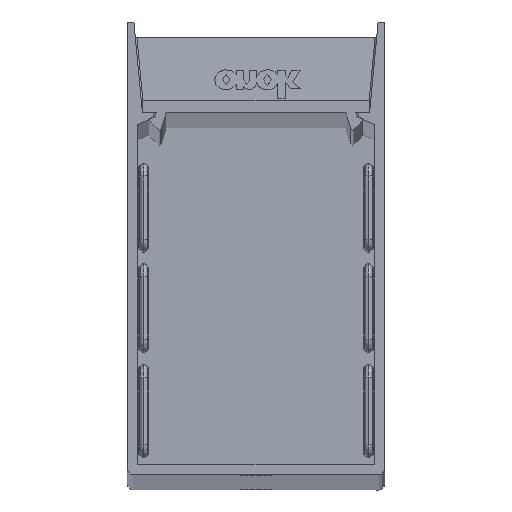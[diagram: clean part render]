
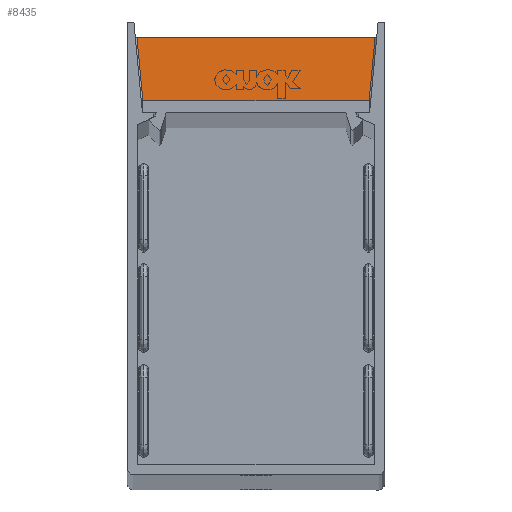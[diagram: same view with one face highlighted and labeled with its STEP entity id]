
A CAD part, top view. The second image highlights one B-rep face of the part: STEP entity #8435.
In plain terms, the highlighted planar face has unit normal (0, 0.093, 0.996) as drawn and (0, 0.093, -0.996) by its records, which use the part's own axes.
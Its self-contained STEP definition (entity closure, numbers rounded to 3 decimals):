
#443 = CARTESIAN_POINT ( 'NONE',  ( -21.25, 37.375, 1.4 ) ) ;
#452 = EDGE_CURVE ( 'NONE', #1576, #7662, #3048, .T. ) ;
#874 = DIRECTION ( 'NONE',  ( 1., 0., 0. ) ) ;
#1205 = EDGE_LOOP ( 'NONE', ( #5895, #5457, #5039, #2758 ) ) ;
#1355 = VECTOR ( 'NONE', #8737, 1000. ) ;
#1576 = VERTEX_POINT ( 'NONE', #4170 ) ;
#1839 = LINE ( 'NONE', #6591, #8629 ) ;
#2533 = EDGE_CURVE ( 'NONE', #5170, #5795, #3220, .T. ) ;
#2758 = ORIENTED_EDGE ( 'NONE', *, *, #452, .T. ) ;
#2826 = VECTOR ( 'NONE', #5839, 1000. ) ;
#2876 = EDGE_CURVE ( 'NONE', #5170, #7662, #1839, .T. ) ;
#3048 = LINE ( 'NONE', #5183, #2826 ) ;
#3220 = LINE ( 'NONE', #7396, #1355 ) ;
#3688 = PLANE ( 'NONE',  #4060 ) ;
#3718 = LINE ( 'NONE', #443, #8847 ) ;
#4060 = AXIS2_PLACEMENT_3D ( 'NONE', #4368, #5042, #874 ) ;
#4137 = CARTESIAN_POINT ( 'NONE',  ( -18.252, 22.375, 0. ) ) ;
#4170 = CARTESIAN_POINT ( 'NONE',  ( 19.652, 37.375, 1.4 ) ) ;
#4368 = CARTESIAN_POINT ( 'NONE',  ( 21.25, 37.375, 1.4 ) ) ;
#4470 = CARTESIAN_POINT ( 'NONE',  ( -19.652, 37.375, 1.4 ) ) ;
#4549 = EDGE_CURVE ( 'NONE', #1576, #5795, #3718, .T. ) ;
#5039 = ORIENTED_EDGE ( 'NONE', *, *, #4549, .F. ) ;
#5042 = DIRECTION ( 'NONE',  ( 0., 0.093, -0.996 ) ) ;
#5170 = VERTEX_POINT ( 'NONE', #4137 ) ;
#5183 = CARTESIAN_POINT ( 'NONE',  ( 18.256, 22.421, 0.004 ) ) ;
#5232 = DIRECTION ( 'NONE',  ( 1., 0., 0. ) ) ;
#5457 = ORIENTED_EDGE ( 'NONE', *, *, #2533, .T. ) ;
#5464 = FACE_OUTER_BOUND ( 'NONE', #1205, .T. ) ;
#5795 = VERTEX_POINT ( 'NONE', #4470 ) ;
#5839 = DIRECTION ( 'NONE',  ( -0.093, -0.991, -0.093 ) ) ;
#5895 = ORIENTED_EDGE ( 'NONE', *, *, #2876, .F. ) ;
#6591 = CARTESIAN_POINT ( 'NONE',  ( 21.25, 22.375, 0. ) ) ;
#7320 = DIRECTION ( 'NONE',  ( -1., 0., 0. ) ) ;
#7396 = CARTESIAN_POINT ( 'NONE',  ( -19.656, 37.421, 1.404 ) ) ;
#7641 = CARTESIAN_POINT ( 'NONE',  ( 18.252, 22.375, 0. ) ) ;
#7662 = VERTEX_POINT ( 'NONE', #7641 ) ;
#8435 = ADVANCED_FACE ( 'NONE', ( #5464 ), #3688, .T. ) ;
#8629 = VECTOR ( 'NONE', #5232, 1000. ) ;
#8737 = DIRECTION ( 'NONE',  ( -0.093, 0.991, 0.093 ) ) ;
#8847 = VECTOR ( 'NONE', #7320, 1000. ) ;
